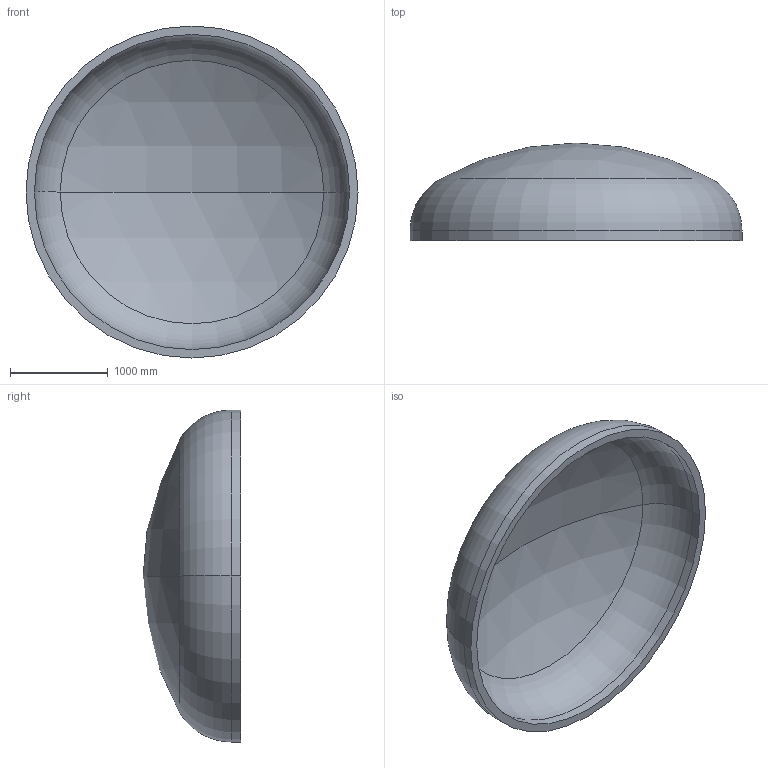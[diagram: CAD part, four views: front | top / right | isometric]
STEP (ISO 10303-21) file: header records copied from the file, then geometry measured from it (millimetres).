
FILE_DESCRIPTION (( 'STEP AP203' ), '1' );
FILE_NAME ('DIN 28013 Korbbogenform_-_Boden DIN 28013 - 3400 x 100 - I - s=86.step', '2016-07-01T19:47:51', ( '' ), ( '' ), 'SwSTEP 2.0', 'SolidWorks 2013', '' );
FILE_SCHEMA (( 'CONFIG_CONTROL_DESIGN' ));
Length unit declared in the file: millimetre
Products named in the file (1): DIN 28013 Korbbogenform_-_Boden DIN 28013 - 3400 x 100 - I - s=86
Bounding box: 3400 x 1000.19 x 3400 mm (x, y, z)
Volume: 1136227381.1 mm3; surface area: 27334740.2 mm2
Topology: 1 solids, 1 shells, 13 faces, 24 edges, 14 vertices
Faces by surface type: torus 4, cylinder 4, sphere 4, plane 1
Entity records: 407 total; most frequent: DIRECTION 72, CARTESIAN_POINT 52, ORIENTED_EDGE 48, AXIS2_PLACEMENT_3D 34, EDGE_CURVE 24, CIRCLE 20, VERTEX_POINT 14, EDGE_LOOP 14
